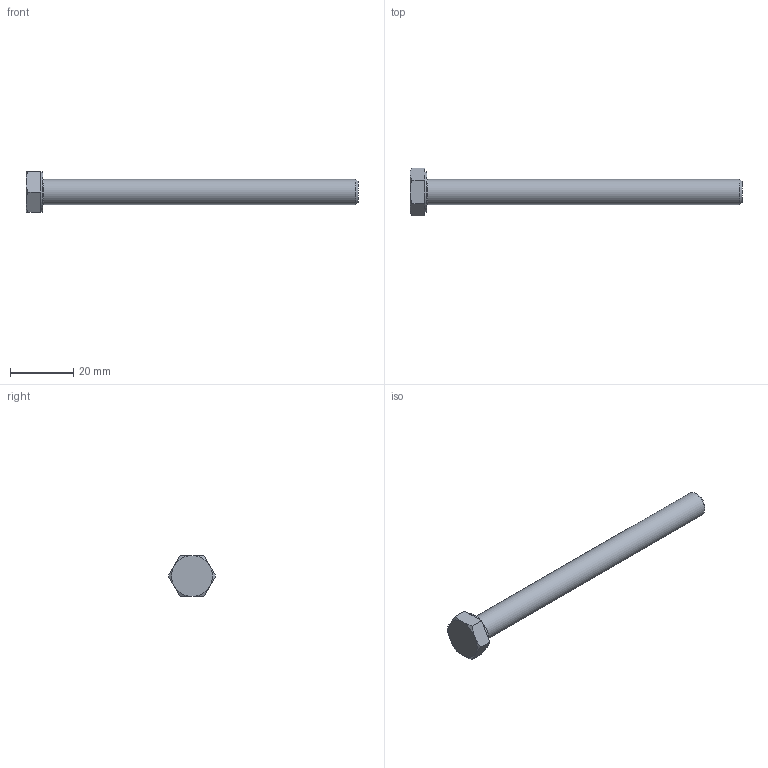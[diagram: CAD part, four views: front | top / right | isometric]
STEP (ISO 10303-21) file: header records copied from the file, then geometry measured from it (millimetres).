
FILE_DESCRIPTION (( 'STEP AP203' ), '1' );
FILE_NAME ('Vis tête hexagonale DIN EN 24014 - M8 x 80.STEP', '2026-06-24T07:29:51', ( '' ), ( '' ), 'SwSTEP 2.0', 'SolidWorks 2024', '' );
FILE_SCHEMA (( 'CONFIG_CONTROL_DESIGN' ));
Length unit declared in the file: millimetre
Products named in the file (1): Vis tête hexagonale DIN EN 24014 - M8 x 80_DIN EN 24014 - M8 x 100 x 100-C
Bounding box: 105.3 x 15.01 x 13 mm (x, y, z)
Volume: 5786.9 mm3; surface area: 3020.3 mm2
Topology: 1 solids, 1 shells, 25 faces, 52 edges, 30 vertices
Faces by surface type: plane 15, cone 7, cylinder 2, torus 1
Full cylindrical faces by diameter (mm): 8 x1, 13 x1
Entity records: 741 total; most frequent: CARTESIAN_POINT 170, DIRECTION 104, ORIENTED_EDGE 94, EDGE_CURVE 47, AXIS2_PLACEMENT_3D 43, EDGE_LOOP 30, VERTEX_POINT 29, FACE_OUTER_BOUND 28
